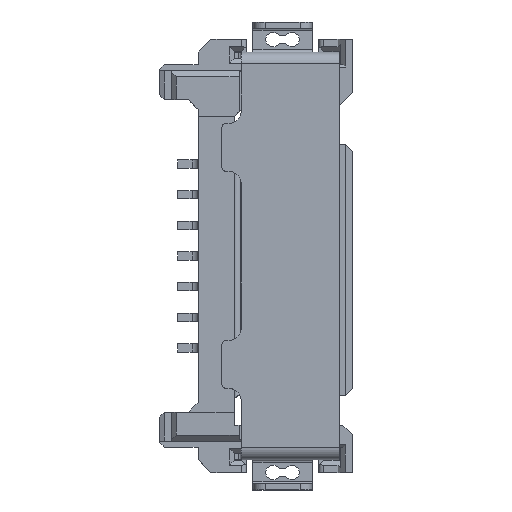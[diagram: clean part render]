
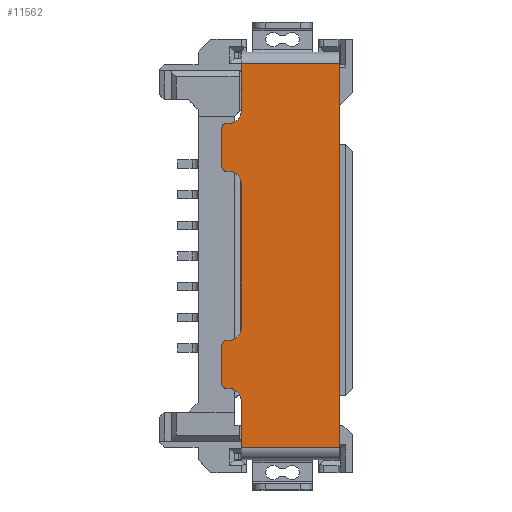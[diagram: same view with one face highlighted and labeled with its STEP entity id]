
A CAD part, top view. The second image highlights one B-rep face of the part: STEP entity #11562.
In plain terms, the highlighted planar face has unit normal (0, 0, 1).
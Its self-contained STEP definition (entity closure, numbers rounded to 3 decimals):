
#10462=CARTESIAN_POINT('Vertex',(-0.55,13.534,7.)) ;
#10465=CARTESIAN_POINT('Line Origine',(-0.55,5.57,7.)) ;
#10469=CARTESIAN_POINT('Vertex',(-0.55,-2.394,7.)) ;
#10506=CARTESIAN_POINT('Vertex',(-4.617,13.534,7.)) ;
#10509=CARTESIAN_POINT('Line Origine',(-2.584,13.534,7.)) ;
#10526=CARTESIAN_POINT('Line Origine',(-4.617,12.552,7.)) ;
#10530=CARTESIAN_POINT('Vertex',(-4.617,11.57,7.)) ;
#10901=CARTESIAN_POINT('Vertex',(-4.617,-0.43,7.)) ;
#10918=CARTESIAN_POINT('Vertex',(-4.617,-2.394,7.)) ;
#10921=CARTESIAN_POINT('Line Origine',(-4.617,-1.412,7.)) ;
#10973=CARTESIAN_POINT('Line Origine',(-2.584,-2.394,7.)) ;
#11424=CARTESIAN_POINT('Axis2P3D Location',(-2.9,5.57,7.)) ;
#11429=CARTESIAN_POINT('Axis2P3D Location',(-5.117,-0.43,7.)) ;
#11433=CARTESIAN_POINT('Vertex',(-5.117,0.07,7.)) ;
#11436=CARTESIAN_POINT('Axis2P3D Location',(-5.117,11.57,7.)) ;
#11440=CARTESIAN_POINT('Vertex',(-5.117,11.07,7.)) ;
#11443=CARTESIAN_POINT('Line Origine',(-5.167,11.07,7.)) ;
#11447=CARTESIAN_POINT('Vertex',(-5.217,11.07,7.)) ;
#11450=CARTESIAN_POINT('Axis2P3D Location',(-5.217,10.87,7.)) ;
#11454=CARTESIAN_POINT('Vertex',(-5.417,10.87,7.)) ;
#11457=CARTESIAN_POINT('Line Origine',(-5.417,10.07,7.)) ;
#11461=CARTESIAN_POINT('Vertex',(-5.417,9.27,7.)) ;
#11464=CARTESIAN_POINT('Axis2P3D Location',(-5.217,9.27,7.)) ;
#11468=CARTESIAN_POINT('Vertex',(-5.217,9.07,7.)) ;
#11471=CARTESIAN_POINT('Line Origine',(-5.167,9.07,7.)) ;
#11475=CARTESIAN_POINT('Vertex',(-5.117,9.07,7.)) ;
#11478=CARTESIAN_POINT('Axis2P3D Location',(-5.117,8.57,7.)) ;
#11482=CARTESIAN_POINT('Vertex',(-4.617,8.57,7.)) ;
#11485=CARTESIAN_POINT('Line Origine',(-4.617,7.07,7.)) ;
#11489=CARTESIAN_POINT('Vertex',(-4.617,5.57,7.)) ;
#11492=CARTESIAN_POINT('Line Origine',(-4.617,4.07,7.)) ;
#11496=CARTESIAN_POINT('Vertex',(-4.617,2.57,7.)) ;
#11499=CARTESIAN_POINT('Axis2P3D Location',(-5.117,2.57,7.)) ;
#11503=CARTESIAN_POINT('Vertex',(-5.117,2.07,7.)) ;
#11506=CARTESIAN_POINT('Line Origine',(-5.167,2.07,7.)) ;
#11510=CARTESIAN_POINT('Vertex',(-5.217,2.07,7.)) ;
#11513=CARTESIAN_POINT('Axis2P3D Location',(-5.217,1.87,7.)) ;
#11517=CARTESIAN_POINT('Vertex',(-5.417,1.87,7.)) ;
#11520=CARTESIAN_POINT('Line Origine',(-5.417,1.07,7.)) ;
#11524=CARTESIAN_POINT('Vertex',(-5.417,0.27,7.)) ;
#11527=CARTESIAN_POINT('Axis2P3D Location',(-5.217,0.27,7.)) ;
#11531=CARTESIAN_POINT('Vertex',(-5.217,0.07,7.)) ;
#11534=CARTESIAN_POINT('Line Origine',(-5.167,0.07,7.)) ;
#10466=DIRECTION('Vector Direction',(0.,-1.,0.)) ;
#10510=DIRECTION('Vector Direction',(-1.,0.,0.)) ;
#10527=DIRECTION('Vector Direction',(0.,-1.,0.)) ;
#10922=DIRECTION('Vector Direction',(0.,-1.,0.)) ;
#10974=DIRECTION('Vector Direction',(1.,0.,0.)) ;
#11425=DIRECTION('Axis2P3D Direction',(-0.,0.,1.)) ;
#11426=DIRECTION('Axis2P3D XDirection',(0.,-1.,0.)) ;
#11430=DIRECTION('Axis2P3D Direction',(-0.,0.,1.)) ;
#11437=DIRECTION('Axis2P3D Direction',(-0.,0.,1.)) ;
#11444=DIRECTION('Vector Direction',(-1.,0.,0.)) ;
#11451=DIRECTION('Axis2P3D Direction',(-0.,0.,1.)) ;
#11458=DIRECTION('Vector Direction',(0.,1.,0.)) ;
#11465=DIRECTION('Axis2P3D Direction',(-0.,0.,1.)) ;
#11472=DIRECTION('Vector Direction',(1.,0.,0.)) ;
#11479=DIRECTION('Axis2P3D Direction',(-0.,0.,1.)) ;
#11486=DIRECTION('Vector Direction',(0.,-1.,0.)) ;
#11493=DIRECTION('Vector Direction',(0.,-1.,0.)) ;
#11500=DIRECTION('Axis2P3D Direction',(-0.,0.,1.)) ;
#11507=DIRECTION('Vector Direction',(1.,0.,0.)) ;
#11514=DIRECTION('Axis2P3D Direction',(-0.,0.,1.)) ;
#11521=DIRECTION('Vector Direction',(0.,1.,0.)) ;
#11528=DIRECTION('Axis2P3D Direction',(-0.,0.,1.)) ;
#11535=DIRECTION('Vector Direction',(-1.,0.,0.)) ;
#11427=AXIS2_PLACEMENT_3D('Plane Axis2P3D',#11424,#11425,#11426) ;
#11431=AXIS2_PLACEMENT_3D('Circle Axis2P3D',#11429,#11430,$) ;
#11438=AXIS2_PLACEMENT_3D('Circle Axis2P3D',#11436,#11437,$) ;
#11452=AXIS2_PLACEMENT_3D('Circle Axis2P3D',#11450,#11451,$) ;
#11466=AXIS2_PLACEMENT_3D('Circle Axis2P3D',#11464,#11465,$) ;
#11480=AXIS2_PLACEMENT_3D('Circle Axis2P3D',#11478,#11479,$) ;
#11501=AXIS2_PLACEMENT_3D('Circle Axis2P3D',#11499,#11500,$) ;
#11515=AXIS2_PLACEMENT_3D('Circle Axis2P3D',#11513,#11514,$) ;
#11529=AXIS2_PLACEMENT_3D('Circle Axis2P3D',#11527,#11528,$) ;
#11540=ORIENTED_EDGE('',*,*,#11435,.T.) ;
#11541=ORIENTED_EDGE('',*,*,#10925,.T.) ;
#11542=ORIENTED_EDGE('',*,*,#10977,.T.) ;
#11543=ORIENTED_EDGE('',*,*,#10471,.T.) ;
#11544=ORIENTED_EDGE('',*,*,#10513,.F.) ;
#11545=ORIENTED_EDGE('',*,*,#10532,.F.) ;
#11546=ORIENTED_EDGE('',*,*,#11442,.F.) ;
#11547=ORIENTED_EDGE('',*,*,#11449,.F.) ;
#11548=ORIENTED_EDGE('',*,*,#11456,.F.) ;
#11549=ORIENTED_EDGE('',*,*,#11463,.F.) ;
#11550=ORIENTED_EDGE('',*,*,#11470,.F.) ;
#11551=ORIENTED_EDGE('',*,*,#11477,.F.) ;
#11552=ORIENTED_EDGE('',*,*,#11484,.F.) ;
#11553=ORIENTED_EDGE('',*,*,#11491,.F.) ;
#11554=ORIENTED_EDGE('',*,*,#11498,.T.) ;
#11555=ORIENTED_EDGE('',*,*,#11505,.T.) ;
#11556=ORIENTED_EDGE('',*,*,#11512,.T.) ;
#11557=ORIENTED_EDGE('',*,*,#11519,.T.) ;
#11558=ORIENTED_EDGE('',*,*,#11526,.T.) ;
#11559=ORIENTED_EDGE('',*,*,#11533,.T.) ;
#11560=ORIENTED_EDGE('',*,*,#11538,.T.) ;
#10467=VECTOR('Line Direction',#10466,1.) ;
#10511=VECTOR('Line Direction',#10510,1.) ;
#10528=VECTOR('Line Direction',#10527,1.) ;
#10923=VECTOR('Line Direction',#10922,1.) ;
#10975=VECTOR('Line Direction',#10974,1.) ;
#11445=VECTOR('Line Direction',#11444,1.) ;
#11459=VECTOR('Line Direction',#11458,1.) ;
#11473=VECTOR('Line Direction',#11472,1.) ;
#11487=VECTOR('Line Direction',#11486,1.) ;
#11494=VECTOR('Line Direction',#11493,1.) ;
#11508=VECTOR('Line Direction',#11507,1.) ;
#11522=VECTOR('Line Direction',#11521,1.) ;
#11536=VECTOR('Line Direction',#11535,1.) ;
#11562=ADVANCED_FACE('INSULATOR-(BJF 5650604-O)',(#11561),#11428,.T.) ;
#11432=CIRCLE('generated circle',#11431,0.5) ;
#11439=CIRCLE('generated circle',#11438,0.5) ;
#11453=CIRCLE('generated circle',#11452,0.2) ;
#11467=CIRCLE('generated circle',#11466,0.2) ;
#11481=CIRCLE('generated circle',#11480,0.5) ;
#11502=CIRCLE('generated circle',#11501,0.5) ;
#11516=CIRCLE('generated circle',#11515,0.2) ;
#11530=CIRCLE('generated circle',#11529,0.2) ;
#10471=EDGE_CURVE('',#10470,#10463,#10468,.F.) ;
#10513=EDGE_CURVE('',#10507,#10463,#10512,.F.) ;
#10532=EDGE_CURVE('',#10531,#10507,#10529,.F.) ;
#10925=EDGE_CURVE('',#10902,#10919,#10924,.T.) ;
#10977=EDGE_CURVE('',#10919,#10470,#10976,.T.) ;
#11435=EDGE_CURVE('',#11434,#10902,#11432,.F.) ;
#11442=EDGE_CURVE('',#11441,#10531,#11439,.T.) ;
#11449=EDGE_CURVE('',#11448,#11441,#11446,.F.) ;
#11456=EDGE_CURVE('',#11455,#11448,#11453,.F.) ;
#11463=EDGE_CURVE('',#11462,#11455,#11460,.T.) ;
#11470=EDGE_CURVE('',#11469,#11462,#11467,.F.) ;
#11477=EDGE_CURVE('',#11476,#11469,#11474,.F.) ;
#11484=EDGE_CURVE('',#11483,#11476,#11481,.T.) ;
#11491=EDGE_CURVE('',#11490,#11483,#11488,.F.) ;
#11498=EDGE_CURVE('',#11490,#11497,#11495,.T.) ;
#11505=EDGE_CURVE('',#11497,#11504,#11502,.F.) ;
#11512=EDGE_CURVE('',#11504,#11511,#11509,.F.) ;
#11519=EDGE_CURVE('',#11511,#11518,#11516,.T.) ;
#11526=EDGE_CURVE('',#11518,#11525,#11523,.F.) ;
#11533=EDGE_CURVE('',#11525,#11532,#11530,.T.) ;
#11538=EDGE_CURVE('',#11532,#11434,#11537,.F.) ;
#11539=EDGE_LOOP('',(#11540,#11541,#11542,#11543,#11544,#11545,#11546,#11547,#11548,#11549,#11550,#11551,#11552,#11553,#11554,#11555,#11556,#11557,#11558,#11559,#11560)) ;
#11561=FACE_OUTER_BOUND('',#11539,.T.) ;
#10468=LINE('Line',#10465,#10467) ;
#10512=LINE('Line',#10509,#10511) ;
#10529=LINE('Line',#10526,#10528) ;
#10924=LINE('Line',#10921,#10923) ;
#10976=LINE('Line',#10973,#10975) ;
#11446=LINE('Line',#11443,#11445) ;
#11460=LINE('Line',#11457,#11459) ;
#11474=LINE('Line',#11471,#11473) ;
#11488=LINE('Line',#11485,#11487) ;
#11495=LINE('Line',#11492,#11494) ;
#11509=LINE('Line',#11506,#11508) ;
#11523=LINE('Line',#11520,#11522) ;
#11537=LINE('Line',#11534,#11536) ;
#11428=PLANE('',#11427) ;
#10463=VERTEX_POINT('',#10462) ;
#10470=VERTEX_POINT('',#10469) ;
#10507=VERTEX_POINT('',#10506) ;
#10531=VERTEX_POINT('',#10530) ;
#10902=VERTEX_POINT('',#10901) ;
#10919=VERTEX_POINT('',#10918) ;
#11434=VERTEX_POINT('',#11433) ;
#11441=VERTEX_POINT('',#11440) ;
#11448=VERTEX_POINT('',#11447) ;
#11455=VERTEX_POINT('',#11454) ;
#11462=VERTEX_POINT('',#11461) ;
#11469=VERTEX_POINT('',#11468) ;
#11476=VERTEX_POINT('',#11475) ;
#11483=VERTEX_POINT('',#11482) ;
#11490=VERTEX_POINT('',#11489) ;
#11497=VERTEX_POINT('',#11496) ;
#11504=VERTEX_POINT('',#11503) ;
#11511=VERTEX_POINT('',#11510) ;
#11518=VERTEX_POINT('',#11517) ;
#11525=VERTEX_POINT('',#11524) ;
#11532=VERTEX_POINT('',#11531) ;
